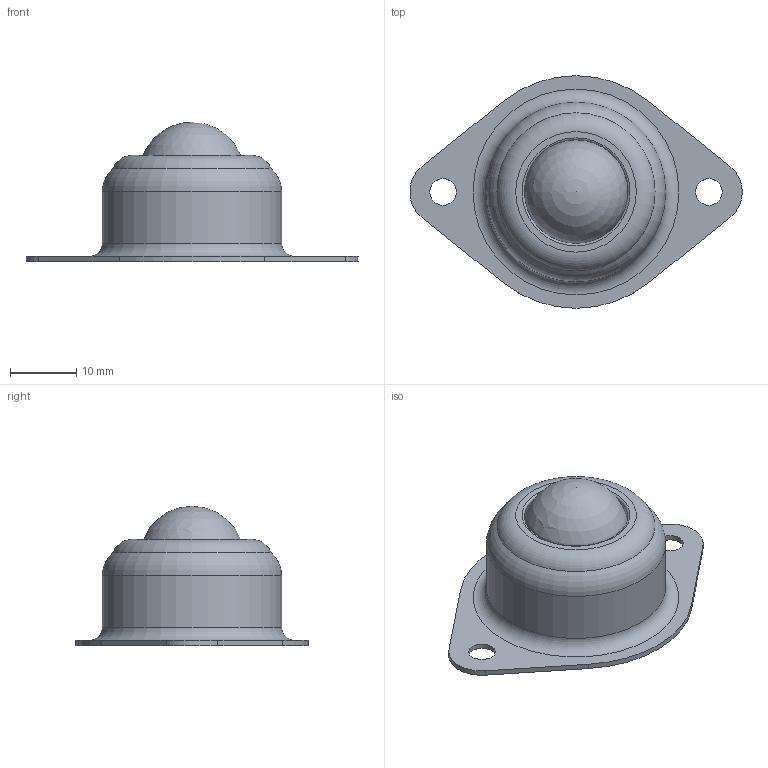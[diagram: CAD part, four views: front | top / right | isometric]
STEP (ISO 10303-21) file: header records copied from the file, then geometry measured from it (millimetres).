
FILE_DESCRIPTION(/* description */ (''),/* implementation_level */ '2;1');
FILE_NAME(/* name */ 'C:/Users/User/Desktop/ball castor CY 15A v3.step',/* time_stamp */ '2020-09-21T13:36:47+08:00',/* author */ (''),/* organization */ (''),/* preprocessor_version */ 'ST-DEVELOPER v18.1',/* originating_system */ 'Autodesk Translation Framework v9.3.0.1241',/* authorisation */ '');
FILE_SCHEMA (('AUTOMOTIVE_DESIGN { 1 0 10303 214 3 1 1 }'));
Length unit declared in the file: millimetre
Products named in the file (3): ball castor CY 15A; shell; ball
Assembly tree (2 placements, depth 2):
  ball castor CY 15A
    shell
    ball
Bounding box: 49.97 x 35 x 21 mm (x, y, z)
Volume: 7069.2 mm3; surface area: 4984.2 mm2
Topology: 2 solids, 2 shells, 24 faces, 61 edges, 40 vertices
Faces by surface type: cylinder 8, plane 7, torus 5, sphere 3, bspline 1
Full cylindrical faces by diameter (mm): 4 x2, 23.8 x1, 27 x1
Entity records: 967 total; most frequent: CARTESIAN_POINT 282, DIRECTION 142, ORIENTED_EDGE 114, AXIS2_PLACEMENT_3D 61, EDGE_CURVE 57, VERTEX_POINT 40, CIRCLE 33, EDGE_LOOP 31
